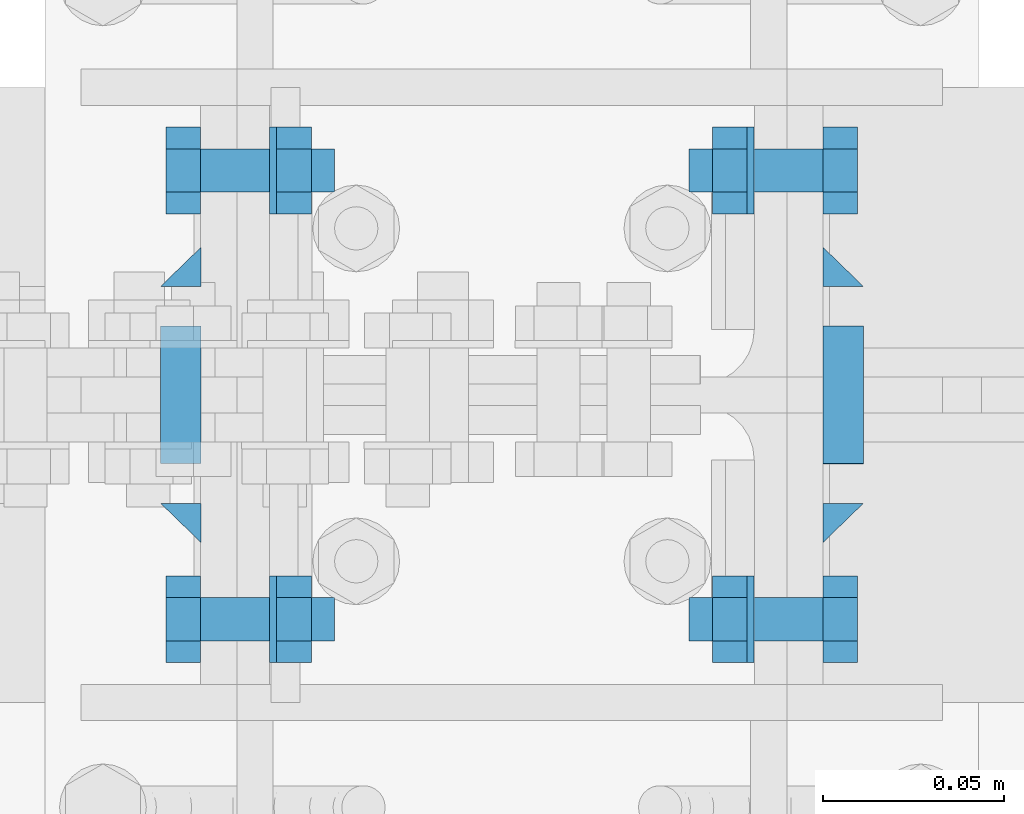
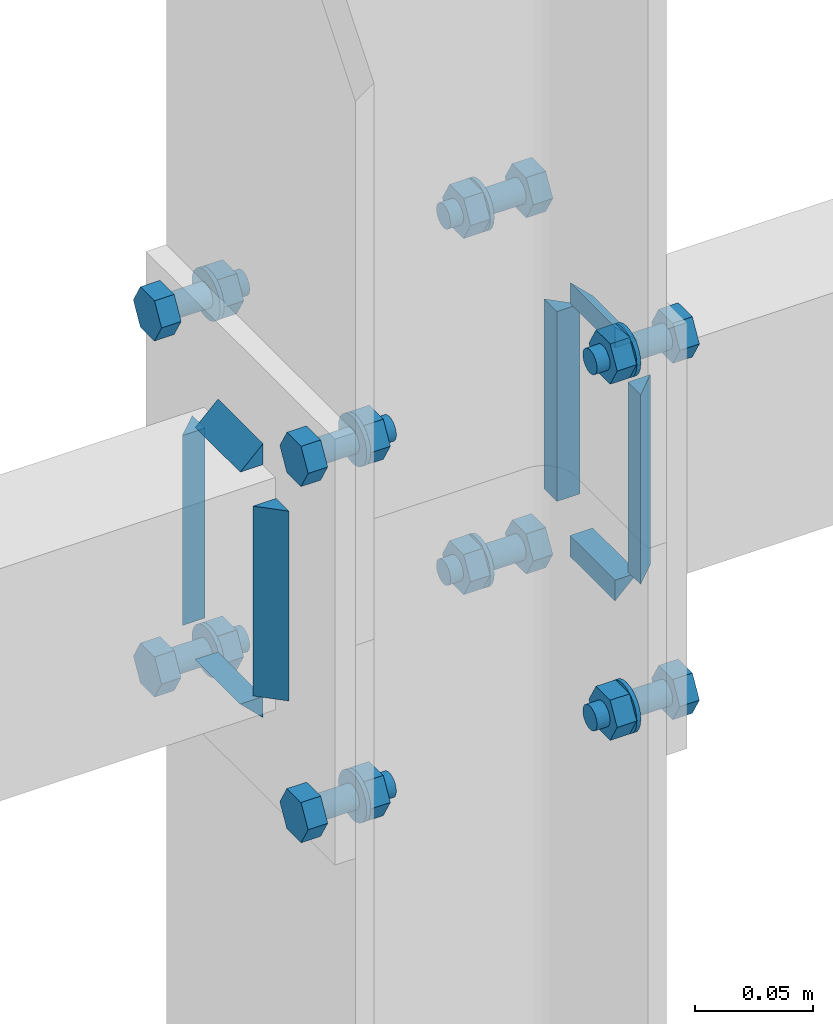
# One storey, part 213 of 251: 32 mechanical fasteners, 15 fasteners.
"""IFC4 building model written with IfcOpenShell, lengths in metres."""

from ifc_helpers import new_model, si_unit, frame, origin_with_axes, place, context, project, spatial, polyline, outline, extrude, type_object, element, save


model = new_model("IFC4")

# Units and contexts
model_context = context("Model", 3, precision=1e-05, world=origin_with_axes())
ifc_project = project(units=[si_unit("LENGTHUNIT", "METRE"), si_unit("AREAUNIT", "SQUARE_METRE"), si_unit("VOLUMEUNIT", "CUBIC_METRE"), si_unit("MASSUNIT", "GRAM", prefix="KILO"), si_unit("TIMEUNIT", "SECOND"), si_unit("PLANEANGLEUNIT", "RADIAN"), si_unit("SOLIDANGLEUNIT", "STERADIAN"), si_unit("THERMODYNAMICTEMPERATUREUNIT", "DEGREE_CELSIUS")], contexts=[model_context])

# Site, building, storey
placement_1 = place(None, origin_with_axes())
site = spatial("IfcSite", under=ifc_project, at=placement_1, Name="Italia", CompositionType="ELEMENT")
building = spatial("IfcBuilding", under=site, at=placement_1, Name="Deposito", CompositionType="ELEMENT")
storey = spatial("IfcBuildingStorey", under=building, at=placement_1, Name="Storey 0", CompositionType="ELEMENT", Elevation=0.0)

# Fasteners
fastener_type_1 = type_object("IfcFastenerType", Name="Collegamenti -006_-005 -006_-007 -007_-006 -007_-008 -014_-013 -014_-015 -015_-014 -015_-016", PredefinedType="WELD")
placement_2 = place(placement_1, origin_with_axes())
fastener_1_placement = place(placement_2, origin_with_axes())
element("IfcFastener", 1, at=fastener_1_placement, inside=storey, type_object=fastener_type_1, Name="Collegamenti -006_-005 -006_-007 -007_-006 -007_-008 -014_-013 -014_-015 -015_-014 -015_-016", context=model_context, shape_type="SweptSolid", body=[
    extrude(outline(polyline([(0.0, 0.0), (-0.0108376, -0.0111732), (-0.0108376, 0.0), (0.0, 0.0)])), frame((15.0141, 20.0408, 3.04905), z_axis=(0.0, 0.0, -1.0), x_axis=(0.0, 1.0, 0.0)), (0.0, 0.0, 1.0), 0.0980997),
])
fastener_type_2 = type_object("IfcFastenerType", Name="Collegamenti -006_-005 -006_-007 -007_-006 -007_-008 -014_-013 -014_-015 -015_-014 -015_-016", PredefinedType="WELD")
fastener_2_placement = place(placement_2, origin_with_axes())
element("IfcFastener", 2, at=fastener_2_placement, inside=storey, type_object=fastener_type_2, Name="Collegamenti -006_-005 -006_-007 -007_-006 -007_-008 -014_-013 -014_-015 -015_-014 -015_-016", context=model_context, shape_type="SweptSolid", body=[
    extrude(outline(polyline([(0.0, 0.0), (0.0108376, 0.0111732), (0.0108376, 0.0), (0.0, 0.0)])), frame((15.0141, 19.9592, 2.95095), z_axis=(0.0, 0.0, 1.0), x_axis=(0.0, 1.0, 0.0)), (0.0, 0.0, 1.0), 0.0980997),
])
fastener_type_3 = type_object("IfcFastenerType", Name="Collegamenti -006_-005 -006_-007 -007_-006 -007_-008 -014_-013 -014_-015 -015_-014 -015_-016", PredefinedType="WELD")
fastener_3_placement = place(placement_2, origin_with_axes())
element("IfcFastener", 3, at=fastener_3_placement, inside=storey, type_object=fastener_type_3, Name="Collegamenti -006_-005 -006_-007 -007_-006 -007_-008 -014_-013 -014_-015 -015_-014 -015_-016", context=model_context, shape_type="SweptSolid", body=[
    extrude(outline(polyline([(0.0, 0.0), (-0.0111732, 0.0108383), (0.0, 0.0108383), (0.0, 0.0)])), frame((15.0141, 20.0191, 2.92921), z_axis=(0.0, -1.0, 0.0), x_axis=(1.0, 0.0, 0.0)), (0.0, 0.0, 1.0), 0.0381012),
])
fastener_type_4 = type_object("IfcFastenerType", Name="Collegamenti -006_-005 -006_-007 -007_-006 -007_-008 -014_-013 -014_-015 -015_-014 -015_-016", PredefinedType="WELD")
fastener_4_placement = place(placement_2, origin_with_axes())
element("IfcFastener", 4, at=fastener_4_placement, inside=storey, type_object=fastener_type_4, Name="Collegamenti -006_-005 -006_-007 -007_-006 -007_-008 -014_-013 -014_-015 -015_-014 -015_-016", context=model_context, shape_type="SweptSolid", body=[
    extrude(outline(polyline([(0.0, 0.0), (0.0111732, -0.0108383), (0.0, -0.0108383), (0.0, 0.0)])), frame((15.0141, 19.9809, 3.07079), z_axis=(0.0, 1.0, 0.0), x_axis=(-1.0, 0.0, 0.0)), (0.0, 0.0, 1.0), 0.0381012),
])
fastener_type_5 = type_object("IfcFastenerType", Name="Collegamenti -006_-005 -006_-007 -007_-006 -007_-008 -014_-013 -014_-015 -015_-014 -015_-016", PredefinedType="WELD")
fastener_5_placement = place(placement_2, origin_with_axes())
element("IfcFastener", 5, at=fastener_5_placement, inside=storey, type_object=fastener_type_5, Name="Collegamenti -006_-005 -006_-007 -007_-006 -007_-008 -014_-013 -014_-015 -015_-014 -015_-016", context=model_context, shape_type="SweptSolid", body=[
    extrude(outline(polyline([(0.0, 0.0), (-0.0108376, -0.0111732), (-0.0108376, 0.0), (0.0, 0.0)])), frame((15.0141, 20.0408, 3.04905), z_axis=(0.0, 0.0, -1.0), x_axis=(0.0, 1.0, 0.0)), (0.0, 0.0, 1.0), 0.0980997),
])
fastener_type_6 = type_object("IfcFastenerType", Name="Collegamenti -006_-005 -006_-007 -007_-006 -007_-008 -014_-013 -014_-015 -015_-014 -015_-016", PredefinedType="WELD")
fastener_6_placement = place(placement_2, origin_with_axes())
element("IfcFastener", 6, at=fastener_6_placement, inside=storey, type_object=fastener_type_6, Name="Collegamenti -006_-005 -006_-007 -007_-006 -007_-008 -014_-013 -014_-015 -015_-014 -015_-016", context=model_context, shape_type="SweptSolid", body=[
    extrude(outline(polyline([(0.0, 0.0), (0.0108376, 0.0111732), (0.0108376, 0.0), (0.0, 0.0)])), frame((15.0141, 19.9592, 2.95095), z_axis=(0.0, 0.0, 1.0), x_axis=(0.0, 1.0, 0.0)), (0.0, 0.0, 1.0), 0.0980997),
])
fastener_type_7 = type_object("IfcFastenerType", Name="Collegamenti -006_-005 -006_-007 -007_-006 -007_-008 -014_-013 -014_-015 -015_-014 -015_-016", PredefinedType="WELD")
fastener_7_placement = place(placement_2, origin_with_axes())
element("IfcFastener", 7, at=fastener_7_placement, inside=storey, type_object=fastener_type_7, Name="Collegamenti -006_-005 -006_-007 -007_-006 -007_-008 -014_-013 -014_-015 -015_-014 -015_-016", context=model_context, shape_type="SweptSolid", body=[
    extrude(outline(polyline([(0.0, 0.0), (-0.0111732, 0.0108383), (0.0, 0.0108383), (0.0, 0.0)])), frame((15.0141, 20.0191, 2.92921), z_axis=(0.0, -1.0, 0.0), x_axis=(1.0, 0.0, 0.0)), (0.0, 0.0, 1.0), 0.0381012),
])

# Mechanical fasteners
mechanical_fastener_type_1 = type_object("IfcMechanicalFastenerType", Name="Collegamenti -006_-005 -006_-007 -007_-006 -007_-008 -014_-013 -014_-015 -015_-014 -015_-016", PredefinedType="BOLT")
mechanical_fastener_1_placement = place(placement_2, origin_with_axes())
element("IfcMechanicalFastener", 8, at=mechanical_fastener_1_placement, inside=storey, type_object=mechanical_fastener_type_1, Name="Collegamenti -006_-005 -006_-007 -007_-006 -007_-008 -014_-013 -014_-015 -015_-014 -015_-016", NominalDiameter=0.0119992, context=model_context, shape_type="SweptSolid", body=[
    extrude(outline(polyline([(0.0, 0.0), (-0.012001, 0.0), (-0.0179996, 0.0103922), (-0.012001, 0.0207844), (0.0, 0.0207844), (0.00600052, 0.0103922), (0.0, 0.0)])), frame((15.014, 20.056, 2.89761), z_axis=(-1.0, 0.0, 0.0), x_axis=(0.0, -1.0, 0.0)), (0.0, 0.0, 1.0), 0.00959969),
])
mechanical_fastener_type_2 = type_object("IfcMechanicalFastenerType", Name="Collegamenti -006_-005 -006_-007 -007_-006 -007_-008 -014_-013 -014_-015 -015_-014 -015_-016", PredefinedType="BOLT")
mechanical_fastener_2_placement = place(placement_2, origin_with_axes())
element("IfcMechanicalFastener", 9, at=mechanical_fastener_2_placement, inside=storey, type_object=mechanical_fastener_type_2, Name="Collegamenti -006_-005 -006_-007 -007_-006 -007_-008 -014_-013 -014_-015 -015_-014 -015_-016", NominalDiameter=0.012, context=model_context, shape_type="SweptSolid", body=[
    extrude(outline(polyline([(0.0, 0.0), (-0.000204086, -0.00155282), (-0.000804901, -0.00300002), (-0.00175858, -0.00424266), (-0.00300026, -0.00519609), (-0.00444794, -0.00579548), (-0.00600052, -0.00600004), (-0.0075531, -0.00579548), (-0.00900078, -0.00519609), (-0.0102425, -0.00424266), (-0.0111961, -0.00300002), (-0.011797, -0.00155282), (-0.012001, 0.0), (-0.011797, 0.00155282), (-0.0111961, 0.00300002), (-0.0102425, 0.00424266), (-0.00900078, 0.00519609), (-0.0075531, 0.00579548), (-0.00600052, 0.00600004), (-0.00444794, 0.00579548), (-0.00300026, 0.00519609), (-0.00175858, 0.00424266), (-0.000804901, 0.00300002), (-0.000204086, 0.00155282), (0.0, 0.0)])), frame((15.051, 20.056, 2.908), z_axis=(-1.0, 0.0, 0.0), x_axis=(0.0, -1.0, 0.0)), (0.0, 0.0, 1.0), 0.0370007),
])
mechanical_fastener_type_3 = type_object("IfcMechanicalFastenerType", Name="Collegamenti -006_-005 -006_-007 -007_-006 -007_-008 -014_-013 -014_-015 -015_-014 -015_-016", PredefinedType="BOLT")
mechanical_fastener_3_placement = place(placement_2, origin_with_axes())
element("IfcMechanicalFastener", 10, at=mechanical_fastener_3_placement, inside=storey, type_object=mechanical_fastener_type_3, Name="Collegamenti -006_-005 -006_-007 -007_-006 -007_-008 -014_-013 -014_-015 -015_-014 -015_-016", NominalDiameter=0.0119992, context=model_context, shape_type="SweptSolid", body=[
    extrude(outline(polyline([(0.0, 0.0), (-0.012001, 0.0), (-0.0179996, 0.0103922), (-0.012001, 0.0207844), (0.0, 0.0207844), (0.00600052, 0.0103922), (0.0, 0.0)])), frame((15.0446, 20.056, 2.89761), z_axis=(-1.0, 0.0, 0.0), x_axis=(0.0, -1.0, 0.0)), (0.0, 0.0, 1.0), 0.00960064),
])
mechanical_fastener_type_4 = type_object("IfcMechanicalFastenerType", Name="Collegamenti -006_-005 -006_-007 -007_-006 -007_-008 -014_-013 -014_-015 -015_-014 -015_-016", PredefinedType="BOLT")
mechanical_fastener_4_placement = place(placement_2, origin_with_axes())
element("IfcMechanicalFastener", 11, at=mechanical_fastener_4_placement, inside=storey, type_object=mechanical_fastener_type_4, Name="Collegamenti -006_-005 -006_-007 -007_-006 -007_-008 -014_-013 -014_-015 -015_-014 -015_-016", NominalDiameter=0.024, context=model_context, shape_type="SweptSolid", body=[
    extrude(outline(polyline([(0.0, 0.0), (-0.000408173, -0.00310588), (-0.00160599, -0.00600004), (-0.00351334, -0.00848532), (-0.00599861, -0.0103922), (-0.00889397, -0.0115912), (-0.0119991, -0.0120001), (-0.0151043, -0.0115912), (-0.0179996, -0.0103922), (-0.0204849, -0.00848532), (-0.0223923, -0.00600004), (-0.0235901, -0.00310588), (-0.0239983, 0.0), (-0.0235901, 0.00310588), (-0.0223923, 0.00600004), (-0.0204849, 0.00848532), (-0.0179996, 0.0103922), (-0.0151043, 0.0115912), (-0.0119991, 0.0120001), (-0.00889397, 0.0115912), (-0.00599861, 0.0103922), (-0.00351334, 0.00848532), (-0.00160599, 0.00600004), (-0.000408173, 0.00310588), (0.0, 0.0)])), frame((15.035, 20.05, 2.908), z_axis=(-1.0, 0.0, 0.0), x_axis=(0.0, -1.0, 0.0)), (0.0, 0.0, 1.0), 0.00199986),
])
mechanical_fastener_type_5 = type_object("IfcMechanicalFastenerType", Name="Collegamenti -006_-005 -006_-007 -007_-006 -007_-008 -014_-013 -014_-015 -015_-014 -015_-016", PredefinedType="BOLT")
mechanical_fastener_5_placement = place(placement_2, origin_with_axes())
element("IfcMechanicalFastener", 12, at=mechanical_fastener_5_placement, inside=storey, type_object=mechanical_fastener_type_5, Name="Collegamenti -006_-005 -006_-007 -007_-006 -007_-008 -014_-013 -014_-015 -015_-014 -015_-016", NominalDiameter=0.0119992, context=model_context, shape_type="SweptSolid", body=[
    extrude(outline(polyline([(0.0, 0.0), (-0.012001, 0.0), (-0.0180016, 0.0103922), (-0.012001, 0.0207844), (0.0, 0.0207844), (0.00599861, 0.0103922), (0.0, 0.0)])), frame((15.014, 19.932, 2.89761), z_axis=(-1.0, 0.0, 0.0), x_axis=(0.0, -1.0, 0.0)), (0.0, 0.0, 1.0), 0.00959969),
])
mechanical_fastener_type_6 = type_object("IfcMechanicalFastenerType", Name="Collegamenti -006_-005 -006_-007 -007_-006 -007_-008 -014_-013 -014_-015 -015_-014 -015_-016", PredefinedType="BOLT")
mechanical_fastener_6_placement = place(placement_2, origin_with_axes())
element("IfcMechanicalFastener", 13, at=mechanical_fastener_6_placement, inside=storey, type_object=mechanical_fastener_type_6, Name="Collegamenti -006_-005 -006_-007 -007_-006 -007_-008 -014_-013 -014_-015 -015_-014 -015_-016", NominalDiameter=0.012, context=model_context, shape_type="SweptSolid", body=[
    extrude(outline(polyline([(0.0, 0.0), (-0.000204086, -0.00155282), (-0.000804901, -0.00300002), (-0.00175858, -0.00424266), (-0.00300026, -0.00519609), (-0.00444794, -0.00579548), (-0.00600052, -0.00600004), (-0.0075531, -0.00579548), (-0.00900078, -0.00519609), (-0.0102425, -0.00424266), (-0.0111961, -0.00300002), (-0.011797, -0.00155282), (-0.012001, 0.0), (-0.011797, 0.00155282), (-0.0111961, 0.00300002), (-0.0102425, 0.00424266), (-0.00900078, 0.00519609), (-0.0075531, 0.00579548), (-0.00600052, 0.00600004), (-0.00444794, 0.00579548), (-0.00300026, 0.00519609), (-0.00175858, 0.00424266), (-0.000804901, 0.00300002), (-0.000204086, 0.00155282), (0.0, 0.0)])), frame((15.051, 19.932, 2.908), z_axis=(-1.0, 0.0, 0.0), x_axis=(0.0, -1.0, 0.0)), (0.0, 0.0, 1.0), 0.0370007),
])
mechanical_fastener_type_7 = type_object("IfcMechanicalFastenerType", Name="Collegamenti -006_-005 -006_-007 -007_-006 -007_-008 -014_-013 -014_-015 -015_-014 -015_-016", PredefinedType="BOLT")
mechanical_fastener_7_placement = place(placement_2, origin_with_axes())
element("IfcMechanicalFastener", 14, at=mechanical_fastener_7_placement, inside=storey, type_object=mechanical_fastener_type_7, Name="Collegamenti -006_-005 -006_-007 -007_-006 -007_-008 -014_-013 -014_-015 -015_-014 -015_-016", NominalDiameter=0.0119992, context=model_context, shape_type="SweptSolid", body=[
    extrude(outline(polyline([(0.0, 0.0), (-0.012001, 0.0), (-0.0180016, 0.0103922), (-0.012001, 0.0207844), (0.0, 0.0207844), (0.00599861, 0.0103922), (0.0, 0.0)])), frame((15.0446, 19.932, 2.89761), z_axis=(-1.0, 0.0, 0.0), x_axis=(0.0, -1.0, 0.0)), (0.0, 0.0, 1.0), 0.00960064),
])
mechanical_fastener_type_8 = type_object("IfcMechanicalFastenerType", Name="Collegamenti -006_-005 -006_-007 -007_-006 -007_-008 -014_-013 -014_-015 -015_-014 -015_-016", PredefinedType="BOLT")
mechanical_fastener_8_placement = place(placement_2, origin_with_axes())
element("IfcMechanicalFastener", 15, at=mechanical_fastener_8_placement, inside=storey, type_object=mechanical_fastener_type_8, Name="Collegamenti -006_-005 -006_-007 -007_-006 -007_-008 -014_-013 -014_-015 -015_-014 -015_-016", NominalDiameter=0.024, context=model_context, shape_type="SweptSolid", body=[
    extrude(outline(polyline([(0.0, 0.0), (-0.000408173, -0.00310588), (-0.00160599, -0.00600004), (-0.00351334, -0.00848532), (-0.00599861, -0.0103922), (-0.00889397, -0.0115912), (-0.0119991, -0.0120001), (-0.0151043, -0.0115912), (-0.0179996, -0.0103922), (-0.0204849, -0.00848532), (-0.0223923, -0.00600004), (-0.0235901, -0.00310588), (-0.0239983, 0.0), (-0.0235901, 0.00310588), (-0.0223923, 0.00600004), (-0.0204849, 0.00848532), (-0.0179996, 0.0103922), (-0.0151043, 0.0115912), (-0.0119991, 0.0120001), (-0.00889397, 0.0115912), (-0.00599861, 0.0103922), (-0.00351334, 0.00848532), (-0.00160599, 0.00600004), (-0.000408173, 0.00310588), (0.0, 0.0)])), frame((15.035, 19.926, 2.908), z_axis=(-1.0, 0.0, 0.0), x_axis=(0.0, -1.0, 0.0)), (0.0, 0.0, 1.0), 0.00199986),
])
mechanical_fastener_type_9 = type_object("IfcMechanicalFastenerType", Name="Collegamenti -006_-005 -006_-007 -007_-006 -007_-008 -014_-013 -014_-015 -015_-014 -015_-016", PredefinedType="BOLT")
mechanical_fastener_9_placement = place(placement_2, origin_with_axes())
element("IfcMechanicalFastener", 16, at=mechanical_fastener_9_placement, inside=storey, type_object=mechanical_fastener_type_9, Name="Collegamenti -006_-005 -006_-007 -007_-006 -007_-008 -014_-013 -014_-015 -015_-014 -015_-016", NominalDiameter=0.0119992, context=model_context, shape_type="SweptSolid", body=[
    extrude(outline(polyline([(0.0, 0.0), (-0.012001, 0.0), (-0.0179996, 0.0103922), (-0.012001, 0.0207844), (0.0, 0.0207844), (0.00600052, 0.0103922), (0.0, 0.0)])), frame((15.014, 20.056, 3.08161), z_axis=(-1.0, 0.0, 0.0), x_axis=(0.0, -1.0, 0.0)), (0.0, 0.0, 1.0), 0.00959969),
])
mechanical_fastener_type_10 = type_object("IfcMechanicalFastenerType", Name="Collegamenti -006_-005 -006_-007 -007_-006 -007_-008 -014_-013 -014_-015 -015_-014 -015_-016", PredefinedType="BOLT")
mechanical_fastener_10_placement = place(placement_2, origin_with_axes())
element("IfcMechanicalFastener", 17, at=mechanical_fastener_10_placement, inside=storey, type_object=mechanical_fastener_type_10, Name="Collegamenti -006_-005 -006_-007 -007_-006 -007_-008 -014_-013 -014_-015 -015_-014 -015_-016", NominalDiameter=0.012, context=model_context, shape_type="SweptSolid", body=[
    extrude(outline(polyline([(0.0, 0.0), (-0.000204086, -0.00155282), (-0.000804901, -0.00300002), (-0.00175858, -0.00424266), (-0.00300026, -0.00519609), (-0.00444794, -0.00579548), (-0.00600052, -0.00600004), (-0.0075531, -0.00579548), (-0.00900078, -0.00519609), (-0.0102425, -0.00424266), (-0.0111961, -0.00300002), (-0.011797, -0.00155282), (-0.012001, 0.0), (-0.011797, 0.00155282), (-0.0111961, 0.00300002), (-0.0102425, 0.00424266), (-0.00900078, 0.00519609), (-0.0075531, 0.00579548), (-0.00600052, 0.00600004), (-0.00444794, 0.00579548), (-0.00300026, 0.00519609), (-0.00175858, 0.00424266), (-0.000804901, 0.00300002), (-0.000204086, 0.00155282), (0.0, 0.0)])), frame((15.051, 20.056, 3.092), z_axis=(-1.0, 0.0, 0.0), x_axis=(0.0, -1.0, 0.0)), (0.0, 0.0, 1.0), 0.0370007),
])
mechanical_fastener_type_11 = type_object("IfcMechanicalFastenerType", Name="Collegamenti -006_-005 -006_-007 -007_-006 -007_-008 -014_-013 -014_-015 -015_-014 -015_-016", PredefinedType="BOLT")
mechanical_fastener_11_placement = place(placement_2, origin_with_axes())
element("IfcMechanicalFastener", 18, at=mechanical_fastener_11_placement, inside=storey, type_object=mechanical_fastener_type_11, Name="Collegamenti -006_-005 -006_-007 -007_-006 -007_-008 -014_-013 -014_-015 -015_-014 -015_-016", NominalDiameter=0.0119992, context=model_context, shape_type="SweptSolid", body=[
    extrude(outline(polyline([(0.0, 0.0), (-0.012001, 0.0), (-0.0179996, 0.0103922), (-0.012001, 0.0207844), (0.0, 0.0207844), (0.00600052, 0.0103922), (0.0, 0.0)])), frame((15.0446, 20.056, 3.08161), z_axis=(-1.0, 0.0, 0.0), x_axis=(0.0, -1.0, 0.0)), (0.0, 0.0, 1.0), 0.00960064),
])
mechanical_fastener_type_12 = type_object("IfcMechanicalFastenerType", Name="Collegamenti -006_-005 -006_-007 -007_-006 -007_-008 -014_-013 -014_-015 -015_-014 -015_-016", PredefinedType="BOLT")
mechanical_fastener_12_placement = place(placement_2, origin_with_axes())
element("IfcMechanicalFastener", 19, at=mechanical_fastener_12_placement, inside=storey, type_object=mechanical_fastener_type_12, Name="Collegamenti -006_-005 -006_-007 -007_-006 -007_-008 -014_-013 -014_-015 -015_-014 -015_-016", NominalDiameter=0.024, context=model_context, shape_type="SweptSolid", body=[
    extrude(outline(polyline([(0.0, 0.0), (-0.000408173, -0.00310588), (-0.00160599, -0.00600004), (-0.00351334, -0.00848532), (-0.00599861, -0.0103922), (-0.00889397, -0.0115912), (-0.0119991, -0.0120001), (-0.0151043, -0.0115912), (-0.0179996, -0.0103922), (-0.0204849, -0.00848532), (-0.0223923, -0.00600004), (-0.0235901, -0.00310588), (-0.0239983, 0.0), (-0.0235901, 0.00310588), (-0.0223923, 0.00600004), (-0.0204849, 0.00848532), (-0.0179996, 0.0103922), (-0.0151043, 0.0115912), (-0.0119991, 0.0120001), (-0.00889397, 0.0115912), (-0.00599861, 0.0103922), (-0.00351334, 0.00848532), (-0.00160599, 0.00600004), (-0.000408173, 0.00310588), (0.0, 0.0)])), frame((15.035, 20.05, 3.092), z_axis=(-1.0, 0.0, 0.0), x_axis=(0.0, -1.0, 0.0)), (0.0, 0.0, 1.0), 0.00199986),
])
mechanical_fastener_type_13 = type_object("IfcMechanicalFastenerType", Name="Collegamenti -006_-005 -006_-007 -007_-006 -007_-008 -014_-013 -014_-015 -015_-014 -015_-016", PredefinedType="BOLT")
mechanical_fastener_13_placement = place(placement_2, origin_with_axes())
element("IfcMechanicalFastener", 20, at=mechanical_fastener_13_placement, inside=storey, type_object=mechanical_fastener_type_13, Name="Collegamenti -006_-005 -006_-007 -007_-006 -007_-008 -014_-013 -014_-015 -015_-014 -015_-016", NominalDiameter=0.0119992, context=model_context, shape_type="SweptSolid", body=[
    extrude(outline(polyline([(0.0, 0.0), (-0.012001, 0.0), (-0.0180016, 0.0103922), (-0.012001, 0.0207844), (0.0, 0.0207844), (0.00599861, 0.0103922), (0.0, 0.0)])), frame((15.014, 19.932, 3.08161), z_axis=(-1.0, 0.0, 0.0), x_axis=(0.0, -1.0, 0.0)), (0.0, 0.0, 1.0), 0.00959969),
])
mechanical_fastener_type_14 = type_object("IfcMechanicalFastenerType", Name="Collegamenti -006_-005 -006_-007 -007_-006 -007_-008 -014_-013 -014_-015 -015_-014 -015_-016", PredefinedType="BOLT")
mechanical_fastener_14_placement = place(placement_2, origin_with_axes())
element("IfcMechanicalFastener", 21, at=mechanical_fastener_14_placement, inside=storey, type_object=mechanical_fastener_type_14, Name="Collegamenti -006_-005 -006_-007 -007_-006 -007_-008 -014_-013 -014_-015 -015_-014 -015_-016", NominalDiameter=0.012, context=model_context, shape_type="SweptSolid", body=[
    extrude(outline(polyline([(0.0, 0.0), (-0.000204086, -0.00155282), (-0.000804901, -0.00300002), (-0.00175858, -0.00424266), (-0.00300026, -0.00519609), (-0.00444794, -0.00579548), (-0.00600052, -0.00600004), (-0.0075531, -0.00579548), (-0.00900078, -0.00519609), (-0.0102425, -0.00424266), (-0.0111961, -0.00300002), (-0.011797, -0.00155282), (-0.012001, 0.0), (-0.011797, 0.00155282), (-0.0111961, 0.00300002), (-0.0102425, 0.00424266), (-0.00900078, 0.00519609), (-0.0075531, 0.00579548), (-0.00600052, 0.00600004), (-0.00444794, 0.00579548), (-0.00300026, 0.00519609), (-0.00175858, 0.00424266), (-0.000804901, 0.00300002), (-0.000204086, 0.00155282), (0.0, 0.0)])), frame((15.051, 19.932, 3.092), z_axis=(-1.0, 0.0, 0.0), x_axis=(0.0, -1.0, 0.0)), (0.0, 0.0, 1.0), 0.0370007),
])
mechanical_fastener_type_15 = type_object("IfcMechanicalFastenerType", Name="Collegamenti -006_-005 -006_-007 -007_-006 -007_-008 -014_-013 -014_-015 -015_-014 -015_-016", PredefinedType="BOLT")
mechanical_fastener_15_placement = place(placement_2, origin_with_axes())
element("IfcMechanicalFastener", 22, at=mechanical_fastener_15_placement, inside=storey, type_object=mechanical_fastener_type_15, Name="Collegamenti -006_-005 -006_-007 -007_-006 -007_-008 -014_-013 -014_-015 -015_-014 -015_-016", NominalDiameter=0.0119992, context=model_context, shape_type="SweptSolid", body=[
    extrude(outline(polyline([(0.0, 0.0), (-0.012001, 0.0), (-0.0180016, 0.0103922), (-0.012001, 0.0207844), (0.0, 0.0207844), (0.00599861, 0.0103922), (0.0, 0.0)])), frame((15.0446, 19.932, 3.08161), z_axis=(-1.0, 0.0, 0.0), x_axis=(0.0, -1.0, 0.0)), (0.0, 0.0, 1.0), 0.00960064),
])
mechanical_fastener_type_16 = type_object("IfcMechanicalFastenerType", Name="Collegamenti -006_-005 -006_-007 -007_-006 -007_-008 -014_-013 -014_-015 -015_-014 -015_-016", PredefinedType="BOLT")
mechanical_fastener_16_placement = place(placement_2, origin_with_axes())
element("IfcMechanicalFastener", 23, at=mechanical_fastener_16_placement, inside=storey, type_object=mechanical_fastener_type_16, Name="Collegamenti -006_-005 -006_-007 -007_-006 -007_-008 -014_-013 -014_-015 -015_-014 -015_-016", NominalDiameter=0.024, context=model_context, shape_type="SweptSolid", body=[
    extrude(outline(polyline([(0.0, 0.0), (-0.000408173, -0.00310588), (-0.00160599, -0.00600004), (-0.00351334, -0.00848532), (-0.00599861, -0.0103922), (-0.00889397, -0.0115912), (-0.0119991, -0.0120001), (-0.0151043, -0.0115912), (-0.0179996, -0.0103922), (-0.0204849, -0.00848532), (-0.0223923, -0.00600004), (-0.0235901, -0.00310588), (-0.0239983, 0.0), (-0.0235901, 0.00310588), (-0.0223923, 0.00600004), (-0.0204849, 0.00848532), (-0.0179996, 0.0103922), (-0.0151043, 0.0115912), (-0.0119991, 0.0120001), (-0.00889397, 0.0115912), (-0.00599861, 0.0103922), (-0.00351334, 0.00848532), (-0.00160599, 0.00600004), (-0.000408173, 0.00310588), (0.0, 0.0)])), frame((15.035, 19.926, 3.092), z_axis=(-1.0, 0.0, 0.0), x_axis=(0.0, -1.0, 0.0)), (0.0, 0.0, 1.0), 0.00199986),
])

# Fasteners
fastener_type_8 = type_object("IfcFastenerType", Name="Collegamenti -006_-005 -006_-007 -007_-006 -007_-008 -014_-013 -014_-015 -015_-014 -015_-016", PredefinedType="WELD")
fastener_8_placement = place(placement_2, origin_with_axes())
element("IfcFastener", 24, at=fastener_8_placement, inside=storey, type_object=fastener_type_8, Name="Collegamenti -006_-005 -006_-007 -007_-006 -007_-008 -014_-013 -014_-015 -015_-014 -015_-016", context=model_context, shape_type="SweptSolid", body=[
    extrude(outline(polyline([(0.0, 0.0), (0.0111732, -0.0108383), (0.0, -0.0108383), (0.0, 0.0)])), frame((15.186, 20.0191, 3.07079), z_axis=(0.0, -1.0, 0.0), x_axis=(1.0, 0.0, 0.0)), (0.0, 0.0, 1.0), 0.0381012),
])
fastener_type_9 = type_object("IfcFastenerType", Name="Collegamenti -006_-005 -006_-007 -007_-006 -007_-008 -014_-013 -014_-015 -015_-014 -015_-016", PredefinedType="WELD")
fastener_9_placement = place(placement_2, origin_with_axes())
element("IfcFastener", 25, at=fastener_9_placement, inside=storey, type_object=fastener_type_9, Name="Collegamenti -006_-005 -006_-007 -007_-006 -007_-008 -014_-013 -014_-015 -015_-014 -015_-016", context=model_context, shape_type="SweptSolid", body=[
    extrude(outline(polyline([(0.0, 0.0), (0.0108376, 0.0111732), (0.0108376, 0.0), (0.0, 0.0)])), frame((15.186, 19.9592, 3.04905), z_axis=(0.0, 0.0, -1.0), x_axis=(0.0, 1.0, 0.0)), (0.0, 0.0, 1.0), 0.0980997),
])
fastener_type_10 = type_object("IfcFastenerType", Name="Collegamenti -006_-005 -006_-007 -007_-006 -007_-008 -014_-013 -014_-015 -015_-014 -015_-016", PredefinedType="WELD")
fastener_10_placement = place(placement_2, origin_with_axes())
element("IfcFastener", 26, at=fastener_10_placement, inside=storey, type_object=fastener_type_10, Name="Collegamenti -006_-005 -006_-007 -007_-006 -007_-008 -014_-013 -014_-015 -015_-014 -015_-016", context=model_context, shape_type="SweptSolid", body=[
    extrude(outline(polyline([(0.0, 0.0), (-0.0108376, -0.0111732), (-0.0108376, 0.0), (0.0, 0.0)])), frame((15.186, 20.0408, 2.95095), z_axis=(0.0, 0.0, 1.0), x_axis=(0.0, 1.0, 0.0)), (0.0, 0.0, 1.0), 0.0980997),
])
fastener_type_11 = type_object("IfcFastenerType", Name="Collegamenti -006_-005 -006_-007 -007_-006 -007_-008 -014_-013 -014_-015 -015_-014 -015_-016", PredefinedType="WELD")
fastener_11_placement = place(placement_2, origin_with_axes())
element("IfcFastener", 27, at=fastener_11_placement, inside=storey, type_object=fastener_type_11, Name="Collegamenti -006_-005 -006_-007 -007_-006 -007_-008 -014_-013 -014_-015 -015_-014 -015_-016", context=model_context, shape_type="SweptSolid", body=[
    extrude(outline(polyline([(0.0, 0.0), (-0.0111732, 0.0108383), (0.0, 0.0108383), (0.0, 0.0)])), frame((15.186, 19.9809, 2.92921), z_axis=(0.0, 1.0, 0.0), x_axis=(-1.0, 0.0, 0.0)), (0.0, 0.0, 1.0), 0.0381012),
])
fastener_type_12 = type_object("IfcFastenerType", Name="Collegamenti -006_-005 -006_-007 -007_-006 -007_-008 -014_-013 -014_-015 -015_-014 -015_-016", PredefinedType="WELD")
fastener_12_placement = place(placement_2, origin_with_axes())
element("IfcFastener", 28, at=fastener_12_placement, inside=storey, type_object=fastener_type_12, Name="Collegamenti -006_-005 -006_-007 -007_-006 -007_-008 -014_-013 -014_-015 -015_-014 -015_-016", context=model_context, shape_type="SweptSolid", body=[
    extrude(outline(polyline([(0.0, 0.0), (0.0111732, -0.0108383), (0.0, -0.0108383), (0.0, 0.0)])), frame((15.186, 20.0191, 3.07079), z_axis=(0.0, -1.0, 0.0), x_axis=(1.0, 0.0, 0.0)), (0.0, 0.0, 1.0), 0.0381012),
])
fastener_type_13 = type_object("IfcFastenerType", Name="Collegamenti -006_-005 -006_-007 -007_-006 -007_-008 -014_-013 -014_-015 -015_-014 -015_-016", PredefinedType="WELD")
fastener_13_placement = place(placement_2, origin_with_axes())
element("IfcFastener", 29, at=fastener_13_placement, inside=storey, type_object=fastener_type_13, Name="Collegamenti -006_-005 -006_-007 -007_-006 -007_-008 -014_-013 -014_-015 -015_-014 -015_-016", context=model_context, shape_type="SweptSolid", body=[
    extrude(outline(polyline([(0.0, 0.0), (0.0108376, 0.0111732), (0.0108376, 0.0), (0.0, 0.0)])), frame((15.186, 19.9592, 3.04905), z_axis=(0.0, 0.0, -1.0), x_axis=(0.0, 1.0, 0.0)), (0.0, 0.0, 1.0), 0.0980997),
])
fastener_type_14 = type_object("IfcFastenerType", Name="Collegamenti -006_-005 -006_-007 -007_-006 -007_-008 -014_-013 -014_-015 -015_-014 -015_-016", PredefinedType="WELD")
fastener_14_placement = place(placement_2, origin_with_axes())
element("IfcFastener", 30, at=fastener_14_placement, inside=storey, type_object=fastener_type_14, Name="Collegamenti -006_-005 -006_-007 -007_-006 -007_-008 -014_-013 -014_-015 -015_-014 -015_-016", context=model_context, shape_type="SweptSolid", body=[
    extrude(outline(polyline([(0.0, 0.0), (-0.0108376, -0.0111732), (-0.0108376, 0.0), (0.0, 0.0)])), frame((15.186, 20.0408, 2.95095), z_axis=(0.0, 0.0, 1.0), x_axis=(0.0, 1.0, 0.0)), (0.0, 0.0, 1.0), 0.0980997),
])
fastener_type_15 = type_object("IfcFastenerType", Name="Collegamenti -006_-005 -006_-007 -007_-006 -007_-008 -014_-013 -014_-015 -015_-014 -015_-016", PredefinedType="WELD")
fastener_15_placement = place(placement_2, origin_with_axes())
element("IfcFastener", 31, at=fastener_15_placement, inside=storey, type_object=fastener_type_15, Name="Collegamenti -006_-005 -006_-007 -007_-006 -007_-008 -014_-013 -014_-015 -015_-014 -015_-016", context=model_context, shape_type="SweptSolid", body=[
    extrude(outline(polyline([(0.0, 0.0), (-0.0111732, 0.0108383), (0.0, 0.0108383), (0.0, 0.0)])), frame((15.186, 19.9809, 2.92921), z_axis=(0.0, 1.0, 0.0), x_axis=(-1.0, 0.0, 0.0)), (0.0, 0.0, 1.0), 0.0381012),
])

# Mechanical fasteners
mechanical_fastener_type_17 = type_object("IfcMechanicalFastenerType", Name="Collegamenti -006_-005 -006_-007 -007_-006 -007_-008 -014_-013 -014_-015 -015_-014 -015_-016", PredefinedType="BOLT")
mechanical_fastener_17_placement = place(placement_2, origin_with_axes())
element("IfcMechanicalFastener", 32, at=mechanical_fastener_17_placement, inside=storey, type_object=mechanical_fastener_type_17, Name="Collegamenti -006_-005 -006_-007 -007_-006 -007_-008 -014_-013 -014_-015 -015_-014 -015_-016", NominalDiameter=0.0119992, context=model_context, shape_type="SweptSolid", body=[
    extrude(outline(polyline([(0.0, 0.0), (-0.012001, 0.0), (-0.0179996, 0.0103922), (-0.012001, 0.0207844), (0.0, 0.0207844), (0.00600052, 0.0103922), (0.0, 0.0)])), frame((15.186, 19.944, 2.89761), z_axis=(1.0, 0.0, 0.0), x_axis=(0.0, 1.0, 0.0)), (0.0, 0.0, 1.0), 0.00959969),
])
mechanical_fastener_type_18 = type_object("IfcMechanicalFastenerType", Name="Collegamenti -006_-005 -006_-007 -007_-006 -007_-008 -014_-013 -014_-015 -015_-014 -015_-016", PredefinedType="BOLT")
mechanical_fastener_18_placement = place(placement_2, origin_with_axes())
element("IfcMechanicalFastener", 33, at=mechanical_fastener_18_placement, inside=storey, type_object=mechanical_fastener_type_18, Name="Collegamenti -006_-005 -006_-007 -007_-006 -007_-008 -014_-013 -014_-015 -015_-014 -015_-016", NominalDiameter=0.012, context=model_context, shape_type="SweptSolid", body=[
    extrude(outline(polyline([(0.0, 0.0), (-0.000204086, -0.00155282), (-0.000804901, -0.00300002), (-0.00175858, -0.00424266), (-0.00300026, -0.00519609), (-0.00444794, -0.00579548), (-0.00600052, -0.00600004), (-0.0075531, -0.00579548), (-0.00900078, -0.00519609), (-0.0102425, -0.00424266), (-0.0111961, -0.00300002), (-0.011797, -0.00155282), (-0.012001, 0.0), (-0.011797, 0.00155282), (-0.0111961, 0.00300002), (-0.0102425, 0.00424266), (-0.00900078, 0.00519609), (-0.0075531, 0.00579548), (-0.00600052, 0.00600004), (-0.00444794, 0.00579548), (-0.00300026, 0.00519609), (-0.00175858, 0.00424266), (-0.000804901, 0.00300002), (-0.000204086, 0.00155282), (0.0, 0.0)])), frame((15.149, 19.944, 2.908), z_axis=(1.0, 0.0, 0.0), x_axis=(0.0, 1.0, 0.0)), (0.0, 0.0, 1.0), 0.0370007),
])
mechanical_fastener_type_19 = type_object("IfcMechanicalFastenerType", Name="Collegamenti -006_-005 -006_-007 -007_-006 -007_-008 -014_-013 -014_-015 -015_-014 -015_-016", PredefinedType="BOLT")
mechanical_fastener_19_placement = place(placement_2, origin_with_axes())
element("IfcMechanicalFastener", 34, at=mechanical_fastener_19_placement, inside=storey, type_object=mechanical_fastener_type_19, Name="Collegamenti -006_-005 -006_-007 -007_-006 -007_-008 -014_-013 -014_-015 -015_-014 -015_-016", NominalDiameter=0.0119992, context=model_context, shape_type="SweptSolid", body=[
    extrude(outline(polyline([(0.0, 0.0), (-0.012001, 0.0), (-0.0179996, 0.0103922), (-0.012001, 0.0207844), (0.0, 0.0207844), (0.00600052, 0.0103922), (0.0, 0.0)])), frame((15.1554, 19.944, 2.89761), z_axis=(1.0, 0.0, 0.0), x_axis=(0.0, 1.0, 0.0)), (0.0, 0.0, 1.0), 0.00960064),
])
mechanical_fastener_type_20 = type_object("IfcMechanicalFastenerType", Name="Collegamenti -006_-005 -006_-007 -007_-006 -007_-008 -014_-013 -014_-015 -015_-014 -015_-016", PredefinedType="BOLT")
mechanical_fastener_20_placement = place(placement_2, origin_with_axes())
element("IfcMechanicalFastener", 35, at=mechanical_fastener_20_placement, inside=storey, type_object=mechanical_fastener_type_20, Name="Collegamenti -006_-005 -006_-007 -007_-006 -007_-008 -014_-013 -014_-015 -015_-014 -015_-016", NominalDiameter=0.024, context=model_context, shape_type="SweptSolid", body=[
    extrude(outline(polyline([(0.0, 0.0), (-0.000408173, -0.00310588), (-0.00160599, -0.00600004), (-0.00351334, -0.00848532), (-0.00599861, -0.0103922), (-0.00889397, -0.0115912), (-0.0119991, -0.0120001), (-0.0151043, -0.0115912), (-0.0179996, -0.0103922), (-0.0204849, -0.00848532), (-0.0223923, -0.00600004), (-0.0235901, -0.00310588), (-0.0239983, 0.0), (-0.0235901, 0.00310588), (-0.0223923, 0.00600004), (-0.0204849, 0.00848532), (-0.0179996, 0.0103922), (-0.0151043, 0.0115912), (-0.0119991, 0.0120001), (-0.00889397, 0.0115912), (-0.00599861, 0.0103922), (-0.00351334, 0.00848532), (-0.00160599, 0.00600004), (-0.000408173, 0.00310588), (0.0, 0.0)])), frame((15.165, 19.95, 2.908), z_axis=(1.0, 0.0, 0.0), x_axis=(0.0, 1.0, 0.0)), (0.0, 0.0, 1.0), 0.00199986),
])
mechanical_fastener_type_21 = type_object("IfcMechanicalFastenerType", Name="Collegamenti -006_-005 -006_-007 -007_-006 -007_-008 -014_-013 -014_-015 -015_-014 -015_-016", PredefinedType="BOLT")
mechanical_fastener_21_placement = place(placement_2, origin_with_axes())
element("IfcMechanicalFastener", 36, at=mechanical_fastener_21_placement, inside=storey, type_object=mechanical_fastener_type_21, Name="Collegamenti -006_-005 -006_-007 -007_-006 -007_-008 -014_-013 -014_-015 -015_-014 -015_-016", NominalDiameter=0.0119992, context=model_context, shape_type="SweptSolid", body=[
    extrude(outline(polyline([(0.0, 0.0), (-0.012001, 0.0), (-0.0180016, 0.0103922), (-0.012001, 0.0207844), (0.0, 0.0207844), (0.00599861, 0.0103922), (0.0, 0.0)])), frame((15.186, 20.068, 2.89761), z_axis=(1.0, 0.0, 0.0), x_axis=(0.0, 1.0, 0.0)), (0.0, 0.0, 1.0), 0.00959969),
])
mechanical_fastener_type_22 = type_object("IfcMechanicalFastenerType", Name="Collegamenti -006_-005 -006_-007 -007_-006 -007_-008 -014_-013 -014_-015 -015_-014 -015_-016", PredefinedType="BOLT")
mechanical_fastener_22_placement = place(placement_2, origin_with_axes())
element("IfcMechanicalFastener", 37, at=mechanical_fastener_22_placement, inside=storey, type_object=mechanical_fastener_type_22, Name="Collegamenti -006_-005 -006_-007 -007_-006 -007_-008 -014_-013 -014_-015 -015_-014 -015_-016", NominalDiameter=0.012, context=model_context, shape_type="SweptSolid", body=[
    extrude(outline(polyline([(0.0, 0.0), (-0.000204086, -0.00155282), (-0.000804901, -0.00300002), (-0.00175858, -0.00424266), (-0.00300026, -0.00519609), (-0.00444794, -0.00579548), (-0.00600052, -0.00600004), (-0.0075531, -0.00579548), (-0.00900078, -0.00519609), (-0.0102425, -0.00424266), (-0.0111961, -0.00300002), (-0.011797, -0.00155282), (-0.012001, 0.0), (-0.011797, 0.00155282), (-0.0111961, 0.00300002), (-0.0102425, 0.00424266), (-0.00900078, 0.00519609), (-0.0075531, 0.00579548), (-0.00600052, 0.00600004), (-0.00444794, 0.00579548), (-0.00300026, 0.00519609), (-0.00175858, 0.00424266), (-0.000804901, 0.00300002), (-0.000204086, 0.00155282), (0.0, 0.0)])), frame((15.149, 20.068, 2.908), z_axis=(1.0, 0.0, 0.0), x_axis=(0.0, 1.0, 0.0)), (0.0, 0.0, 1.0), 0.0370007),
])
mechanical_fastener_type_23 = type_object("IfcMechanicalFastenerType", Name="Collegamenti -006_-005 -006_-007 -007_-006 -007_-008 -014_-013 -014_-015 -015_-014 -015_-016", PredefinedType="BOLT")
mechanical_fastener_23_placement = place(placement_2, origin_with_axes())
element("IfcMechanicalFastener", 38, at=mechanical_fastener_23_placement, inside=storey, type_object=mechanical_fastener_type_23, Name="Collegamenti -006_-005 -006_-007 -007_-006 -007_-008 -014_-013 -014_-015 -015_-014 -015_-016", NominalDiameter=0.0119992, context=model_context, shape_type="SweptSolid", body=[
    extrude(outline(polyline([(0.0, 0.0), (-0.012001, 0.0), (-0.0180016, 0.0103922), (-0.012001, 0.0207844), (0.0, 0.0207844), (0.00599861, 0.0103922), (0.0, 0.0)])), frame((15.1554, 20.068, 2.89761), z_axis=(1.0, 0.0, 0.0), x_axis=(0.0, 1.0, 0.0)), (0.0, 0.0, 1.0), 0.00960064),
])
mechanical_fastener_type_24 = type_object("IfcMechanicalFastenerType", Name="Collegamenti -006_-005 -006_-007 -007_-006 -007_-008 -014_-013 -014_-015 -015_-014 -015_-016", PredefinedType="BOLT")
mechanical_fastener_24_placement = place(placement_2, origin_with_axes())
element("IfcMechanicalFastener", 39, at=mechanical_fastener_24_placement, inside=storey, type_object=mechanical_fastener_type_24, Name="Collegamenti -006_-005 -006_-007 -007_-006 -007_-008 -014_-013 -014_-015 -015_-014 -015_-016", NominalDiameter=0.024, context=model_context, shape_type="SweptSolid", body=[
    extrude(outline(polyline([(0.0, 0.0), (-0.000408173, -0.00310588), (-0.00160599, -0.00600004), (-0.00351334, -0.00848532), (-0.00599861, -0.0103922), (-0.00889397, -0.0115912), (-0.0119991, -0.0120001), (-0.0151043, -0.0115912), (-0.0179996, -0.0103922), (-0.0204849, -0.00848532), (-0.0223923, -0.00600004), (-0.0235901, -0.00310588), (-0.0239983, 0.0), (-0.0235901, 0.00310588), (-0.0223923, 0.00600004), (-0.0204849, 0.00848532), (-0.0179996, 0.0103922), (-0.0151043, 0.0115912), (-0.0119991, 0.0120001), (-0.00889397, 0.0115912), (-0.00599861, 0.0103922), (-0.00351334, 0.00848532), (-0.00160599, 0.00600004), (-0.000408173, 0.00310588), (0.0, 0.0)])), frame((15.165, 20.074, 2.908), z_axis=(1.0, 0.0, 0.0), x_axis=(0.0, 1.0, 0.0)), (0.0, 0.0, 1.0), 0.00199986),
])
mechanical_fastener_type_25 = type_object("IfcMechanicalFastenerType", Name="Collegamenti -006_-005 -006_-007 -007_-006 -007_-008 -014_-013 -014_-015 -015_-014 -015_-016", PredefinedType="BOLT")
mechanical_fastener_25_placement = place(placement_2, origin_with_axes())
element("IfcMechanicalFastener", 40, at=mechanical_fastener_25_placement, inside=storey, type_object=mechanical_fastener_type_25, Name="Collegamenti -006_-005 -006_-007 -007_-006 -007_-008 -014_-013 -014_-015 -015_-014 -015_-016", NominalDiameter=0.0119992, context=model_context, shape_type="SweptSolid", body=[
    extrude(outline(polyline([(0.0, 0.0), (-0.012001, 0.0), (-0.0179996, 0.0103922), (-0.012001, 0.0207844), (0.0, 0.0207844), (0.00600052, 0.0103922), (0.0, 0.0)])), frame((15.186, 19.944, 3.08161), z_axis=(1.0, 0.0, 0.0), x_axis=(0.0, 1.0, 0.0)), (0.0, 0.0, 1.0), 0.00959969),
])
mechanical_fastener_type_26 = type_object("IfcMechanicalFastenerType", Name="Collegamenti -006_-005 -006_-007 -007_-006 -007_-008 -014_-013 -014_-015 -015_-014 -015_-016", PredefinedType="BOLT")
mechanical_fastener_26_placement = place(placement_2, origin_with_axes())
element("IfcMechanicalFastener", 41, at=mechanical_fastener_26_placement, inside=storey, type_object=mechanical_fastener_type_26, Name="Collegamenti -006_-005 -006_-007 -007_-006 -007_-008 -014_-013 -014_-015 -015_-014 -015_-016", NominalDiameter=0.012, context=model_context, shape_type="SweptSolid", body=[
    extrude(outline(polyline([(0.0, 0.0), (-0.000204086, -0.00155282), (-0.000804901, -0.00300002), (-0.00175858, -0.00424266), (-0.00300026, -0.00519609), (-0.00444794, -0.00579548), (-0.00600052, -0.00600004), (-0.0075531, -0.00579548), (-0.00900078, -0.00519609), (-0.0102425, -0.00424266), (-0.0111961, -0.00300002), (-0.011797, -0.00155282), (-0.012001, 0.0), (-0.011797, 0.00155282), (-0.0111961, 0.00300002), (-0.0102425, 0.00424266), (-0.00900078, 0.00519609), (-0.0075531, 0.00579548), (-0.00600052, 0.00600004), (-0.00444794, 0.00579548), (-0.00300026, 0.00519609), (-0.00175858, 0.00424266), (-0.000804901, 0.00300002), (-0.000204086, 0.00155282), (0.0, 0.0)])), frame((15.149, 19.944, 3.092), z_axis=(1.0, 0.0, 0.0), x_axis=(0.0, 1.0, 0.0)), (0.0, 0.0, 1.0), 0.0370007),
])
mechanical_fastener_type_27 = type_object("IfcMechanicalFastenerType", Name="Collegamenti -006_-005 -006_-007 -007_-006 -007_-008 -014_-013 -014_-015 -015_-014 -015_-016", PredefinedType="BOLT")
mechanical_fastener_27_placement = place(placement_2, origin_with_axes())
element("IfcMechanicalFastener", 42, at=mechanical_fastener_27_placement, inside=storey, type_object=mechanical_fastener_type_27, Name="Collegamenti -006_-005 -006_-007 -007_-006 -007_-008 -014_-013 -014_-015 -015_-014 -015_-016", NominalDiameter=0.0119992, context=model_context, shape_type="SweptSolid", body=[
    extrude(outline(polyline([(0.0, 0.0), (-0.012001, 0.0), (-0.0179996, 0.0103922), (-0.012001, 0.0207844), (0.0, 0.0207844), (0.00600052, 0.0103922), (0.0, 0.0)])), frame((15.1554, 19.944, 3.08161), z_axis=(1.0, 0.0, 0.0), x_axis=(0.0, 1.0, 0.0)), (0.0, 0.0, 1.0), 0.00960064),
])
mechanical_fastener_type_28 = type_object("IfcMechanicalFastenerType", Name="Collegamenti -006_-005 -006_-007 -007_-006 -007_-008 -014_-013 -014_-015 -015_-014 -015_-016", PredefinedType="BOLT")
mechanical_fastener_28_placement = place(placement_2, origin_with_axes())
element("IfcMechanicalFastener", 43, at=mechanical_fastener_28_placement, inside=storey, type_object=mechanical_fastener_type_28, Name="Collegamenti -006_-005 -006_-007 -007_-006 -007_-008 -014_-013 -014_-015 -015_-014 -015_-016", NominalDiameter=0.024, context=model_context, shape_type="SweptSolid", body=[
    extrude(outline(polyline([(0.0, 0.0), (-0.000408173, -0.00310588), (-0.00160599, -0.00600004), (-0.00351334, -0.00848532), (-0.00599861, -0.0103922), (-0.00889397, -0.0115912), (-0.0119991, -0.0120001), (-0.0151043, -0.0115912), (-0.0179996, -0.0103922), (-0.0204849, -0.00848532), (-0.0223923, -0.00600004), (-0.0235901, -0.00310588), (-0.0239983, 0.0), (-0.0235901, 0.00310588), (-0.0223923, 0.00600004), (-0.0204849, 0.00848532), (-0.0179996, 0.0103922), (-0.0151043, 0.0115912), (-0.0119991, 0.0120001), (-0.00889397, 0.0115912), (-0.00599861, 0.0103922), (-0.00351334, 0.00848532), (-0.00160599, 0.00600004), (-0.000408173, 0.00310588), (0.0, 0.0)])), frame((15.165, 19.95, 3.092), z_axis=(1.0, 0.0, 0.0), x_axis=(0.0, 1.0, 0.0)), (0.0, 0.0, 1.0), 0.00199986),
])
mechanical_fastener_type_29 = type_object("IfcMechanicalFastenerType", Name="Collegamenti -006_-005 -006_-007 -007_-006 -007_-008 -014_-013 -014_-015 -015_-014 -015_-016", PredefinedType="BOLT")
mechanical_fastener_29_placement = place(placement_2, origin_with_axes())
element("IfcMechanicalFastener", 44, at=mechanical_fastener_29_placement, inside=storey, type_object=mechanical_fastener_type_29, Name="Collegamenti -006_-005 -006_-007 -007_-006 -007_-008 -014_-013 -014_-015 -015_-014 -015_-016", NominalDiameter=0.0119992, context=model_context, shape_type="SweptSolid", body=[
    extrude(outline(polyline([(0.0, 0.0), (-0.012001, 0.0), (-0.0180016, 0.0103922), (-0.012001, 0.0207844), (0.0, 0.0207844), (0.00599861, 0.0103922), (0.0, 0.0)])), frame((15.186, 20.068, 3.08161), z_axis=(1.0, 0.0, 0.0), x_axis=(0.0, 1.0, 0.0)), (0.0, 0.0, 1.0), 0.00959969),
])
mechanical_fastener_type_30 = type_object("IfcMechanicalFastenerType", Name="Collegamenti -006_-005 -006_-007 -007_-006 -007_-008 -014_-013 -014_-015 -015_-014 -015_-016", PredefinedType="BOLT")
mechanical_fastener_30_placement = place(placement_2, origin_with_axes())
element("IfcMechanicalFastener", 45, at=mechanical_fastener_30_placement, inside=storey, type_object=mechanical_fastener_type_30, Name="Collegamenti -006_-005 -006_-007 -007_-006 -007_-008 -014_-013 -014_-015 -015_-014 -015_-016", NominalDiameter=0.012, context=model_context, shape_type="SweptSolid", body=[
    extrude(outline(polyline([(0.0, 0.0), (-0.000204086, -0.00155282), (-0.000804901, -0.00300002), (-0.00175858, -0.00424266), (-0.00300026, -0.00519609), (-0.00444794, -0.00579548), (-0.00600052, -0.00600004), (-0.0075531, -0.00579548), (-0.00900078, -0.00519609), (-0.0102425, -0.00424266), (-0.0111961, -0.00300002), (-0.011797, -0.00155282), (-0.012001, 0.0), (-0.011797, 0.00155282), (-0.0111961, 0.00300002), (-0.0102425, 0.00424266), (-0.00900078, 0.00519609), (-0.0075531, 0.00579548), (-0.00600052, 0.00600004), (-0.00444794, 0.00579548), (-0.00300026, 0.00519609), (-0.00175858, 0.00424266), (-0.000804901, 0.00300002), (-0.000204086, 0.00155282), (0.0, 0.0)])), frame((15.149, 20.068, 3.092), z_axis=(1.0, 0.0, 0.0), x_axis=(0.0, 1.0, 0.0)), (0.0, 0.0, 1.0), 0.0370007),
])
mechanical_fastener_type_31 = type_object("IfcMechanicalFastenerType", Name="Collegamenti -006_-005 -006_-007 -007_-006 -007_-008 -014_-013 -014_-015 -015_-014 -015_-016", PredefinedType="BOLT")
mechanical_fastener_31_placement = place(placement_2, origin_with_axes())
element("IfcMechanicalFastener", 46, at=mechanical_fastener_31_placement, inside=storey, type_object=mechanical_fastener_type_31, Name="Collegamenti -006_-005 -006_-007 -007_-006 -007_-008 -014_-013 -014_-015 -015_-014 -015_-016", NominalDiameter=0.0119992, context=model_context, shape_type="SweptSolid", body=[
    extrude(outline(polyline([(0.0, 0.0), (-0.012001, 0.0), (-0.0180016, 0.0103922), (-0.012001, 0.0207844), (0.0, 0.0207844), (0.00599861, 0.0103922), (0.0, 0.0)])), frame((15.1554, 20.068, 3.08161), z_axis=(1.0, 0.0, 0.0), x_axis=(0.0, 1.0, 0.0)), (0.0, 0.0, 1.0), 0.00960064),
])
mechanical_fastener_type_32 = type_object("IfcMechanicalFastenerType", Name="Collegamenti -006_-005 -006_-007 -007_-006 -007_-008 -014_-013 -014_-015 -015_-014 -015_-016", PredefinedType="BOLT")
mechanical_fastener_32_placement = place(placement_2, origin_with_axes())
element("IfcMechanicalFastener", 47, at=mechanical_fastener_32_placement, inside=storey, type_object=mechanical_fastener_type_32, Name="Collegamenti -006_-005 -006_-007 -007_-006 -007_-008 -014_-013 -014_-015 -015_-014 -015_-016", NominalDiameter=0.024, context=model_context, shape_type="SweptSolid", body=[
    extrude(outline(polyline([(0.0, 0.0), (-0.000408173, -0.00310588), (-0.00160599, -0.00600004), (-0.00351334, -0.00848532), (-0.00599861, -0.0103922), (-0.00889397, -0.0115912), (-0.0119991, -0.0120001), (-0.0151043, -0.0115912), (-0.0179996, -0.0103922), (-0.0204849, -0.00848532), (-0.0223923, -0.00600004), (-0.0235901, -0.00310588), (-0.0239983, 0.0), (-0.0235901, 0.00310588), (-0.0223923, 0.00600004), (-0.0204849, 0.00848532), (-0.0179996, 0.0103922), (-0.0151043, 0.0115912), (-0.0119991, 0.0120001), (-0.00889397, 0.0115912), (-0.00599861, 0.0103922), (-0.00351334, 0.00848532), (-0.00160599, 0.00600004), (-0.000408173, 0.00310588), (0.0, 0.0)])), frame((15.165, 20.074, 3.092), z_axis=(1.0, 0.0, 0.0), x_axis=(0.0, 1.0, 0.0)), (0.0, 0.0, 1.0), 0.00199986),
])

save(model, "model.ifc")
